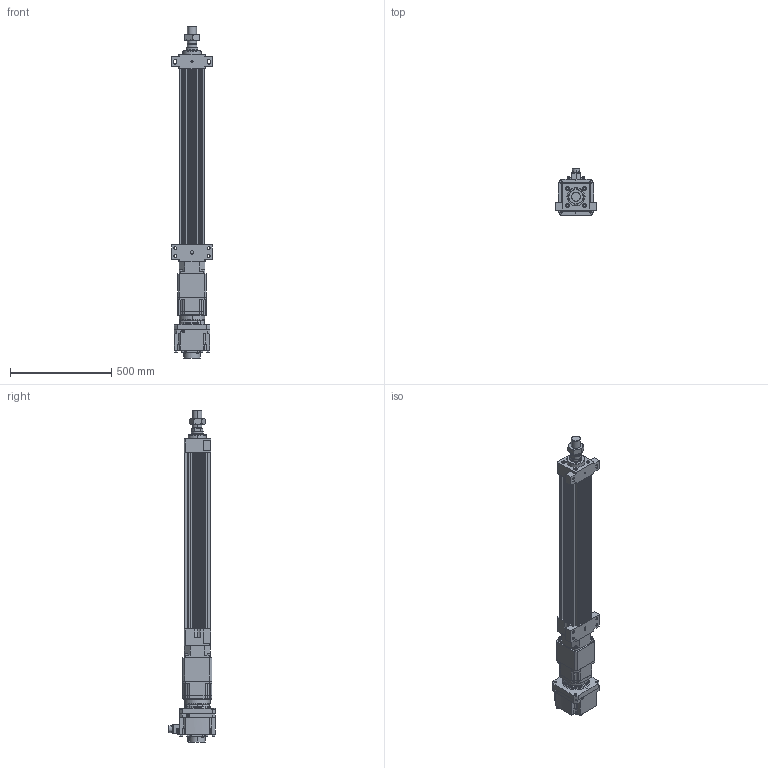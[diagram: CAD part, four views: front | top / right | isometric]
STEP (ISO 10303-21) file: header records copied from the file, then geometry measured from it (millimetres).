
FILE_DESCRIPTION (( 'STEP AP203' ), '1' );
FILE_NAME ('HES130FS(HS)-S650-W020G00-M-FFB.STEP', '2023-01-30T12:48:13', ( 'tms' ), ( '' ), 'SwSTEP 2.0', 'SolidWorks 2013', '' );
FILE_SCHEMA (( 'CONFIG_CONTROL_DESIGN' ));
Length unit declared in the file: millimetre
Products named in the file (9): HES130 ROD M ST650; AB1421; M45X1.5P; P0403500801; AB142-003[HG-SR352]; HES130-S650-G142-FFB; HES130FS(HS)-S650-W020G00-M-FFB; P1301500001; HG-SR202
Assembly tree (8 placements, depth 3):
  HES130FS(HS)-S650-W020G00-M-FFB
    HES130-S650-G142-FFB
    HES130 ROD M ST650
    M45X1.5P
    AB142-003[HG-SR352]
      AB1421
      P1301500001
      P0403500801
    HG-SR202
Bounding box: 200 x 228.85 x 1637.5 mm (x, y, z)
Volume: 14425709 mm3; surface area: 1895284.1 mm2
Topology: 4 solids, 22 shells, 1518 faces, 3922 edges, 2545 vertices
Faces by surface type: cylinder 676, plane 600, cone 160, bspline 76, torus 6
Entity records: 55270 total; most frequent: CARTESIAN_POINT 16778, DIRECTION 8032, ORIENTED_EDGE 7750, EDGE_CURVE 3897, AXIS2_PLACEMENT_3D 3016, VERTEX_POINT 2545, VECTOR 2000, LINE 2000
